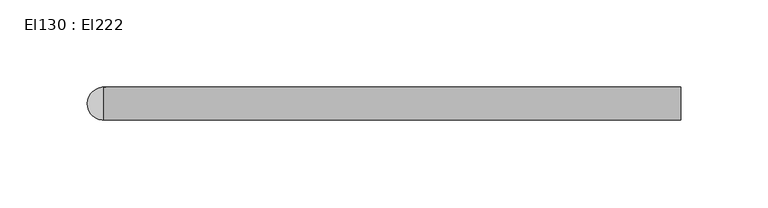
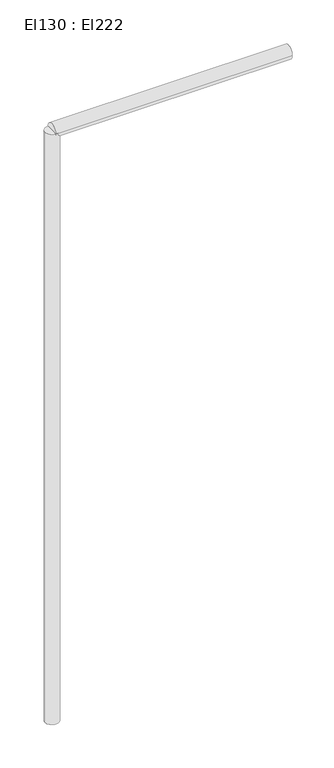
"""IFC4 building model written with IfcOpenShell, lengths in millimetres: cable carrier segment geometry, El130 : El222."""

from ifc_helpers import new_model, si_unit, point, frame, frame_2d, origin, place, context, project, spatial, circle_curve, trimmed, segment, composite_curve, outline, extrude, source, transform, mapped, element, save


def el130_el222_b0904e21(model_context):
    return source(origin(), model_context, "Body", "SweptSolid", [
        extrude(outline(composite_curve([segment(trimmed(circle_curve(frame_2d((3915.1936511, 18966.0121745)), 9.5), [point((3905.6936511, 18966.0121745))], [point((3924.6936511, 18966.0121745))], False, "CARTESIAN"), True, "CONTINUOUS"), segment(trimmed(circle_curve(frame_2d((3915.1936511, 18966.0121745)), 9.5), [point((3924.6936511, 18966.0121745))], [point((3905.6936511, 18966.0121745))], False, "CARTESIAN"), True, "CONTINUOUS")], self_intersect=False)), frame((0.0, 0.0, 1830.0), z_axis=(0.0, 0.0, 1.0), x_axis=(1.0, 0.0, 0.0)), (0.0, 0.0, 1.0), 870.0),
        extrude(outline(composite_curve([segment(trimmed(circle_curve(frame_2d((18966.0121745, 2700.0)), 9.5), [point((18956.5121745, 2700.0))], [point((18975.5121745, 2700.0))], False, "CARTESIAN"), True, "CONTINUOUS"), segment(trimmed(circle_curve(frame_2d((18966.0121745, 2700.0)), 9.5), [point((18975.5121745, 2700.0))], [point((18956.5121745, 2700.0))], False, "CARTESIAN"), True, "CONTINUOUS")], self_intersect=False)), frame((3915.1926511, 0.0, 0.0), z_axis=(1.0, 0.0, 0.0), x_axis=(0.0, 1.0, 0.0)), (0.0, 0.0, 1.0), 330.283),
    ])


if __name__ == "__main__":
    model = new_model("IFC4")
    model_context = context("Model", 3, world=origin())
    ifc_project = project(units=[si_unit("LENGTHUNIT", "METRE", prefix="MILLI")], contexts=[model_context])
    site = spatial("IfcSite", under=ifc_project)
    building = spatial("IfcBuilding", under=site)
    placement = place(None, origin())
    el130_el222_shape = el130_el222_b0904e21(model_context)
    element("IfcCableCarrierSegment", 1, ObjectType="El130 : El222", at=placement, inside=building, context=model_context, shape_type="MappedRepresentation", body=[
        mapped(el130_el222_shape, transform((0.0, 0.0, 0.0), x_axis=(1.0, 0.0, 0.0), y_axis=(0.0, 1.0, 0.0), z_axis=(0.0, 0.0, 1.0))),
    ])
    save(model, "model.ifc")
